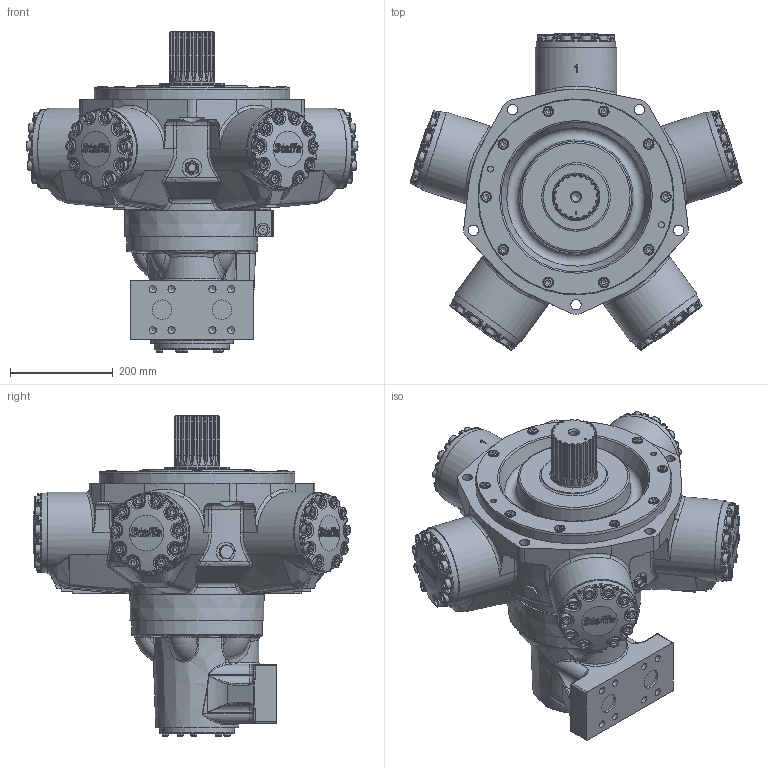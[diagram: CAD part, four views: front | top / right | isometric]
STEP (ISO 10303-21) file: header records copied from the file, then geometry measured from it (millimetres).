
FILE_DESCRIPTION(/* description */ (''),/* implementation_level */ '2;1');
FILE_NAME(/* name */ 'HMC200_S3_SFM4_C_70.stp',/* time_stamp */ '2025-09-30T11:15:56+01:00',/* author */ ('ccallanga'),/* organization */ (''),/* preprocessor_version */ 'ST-DEVELOPER v20',/* originating_system */ 'Autodesk Inventor 2024',/* authorisation */ '');
FILE_SCHEMA (('AUTOMOTIVE_DESIGN { 1 0 10303 214 3 1 1 }'));
Products named in the file (1): 017751 HMC200 Web Assembly_Simplify_1
Bounding box: 645.1 x 616.02 x 621.91 mm (x, y, z)
Volume: 50742477.2 mm3; surface area: 1320679.9 mm2
Topology: 1 solids, 1 shells, 4724 faces, 11574 edges, 6891 vertices
Faces by surface type: bspline 1709, plane 1204, cylinder 1032, torus 462, cone 189, sphere 128
Full cylindrical faces by diameter (mm): 2.2 x4, 4 x1, 4.134 x4, 5.5 x4, 9.4 x1, 11.328 x2, 11.913 x5, 12 x1, 12.7 x5, 13.835 x8, 16.51 x1, 17.323 x1, 19 x1, 19.05 x60, 20 x5, 20.637 x60, 23.825 x5, 25 x1, 25.4 x5, 26.92 x2, 38 x2, 38.1 x3, 87.889 x1, 88.837 x1, 92.964 x1, 127 x1, 146.05 x1, 254 x1, 380.91 x1
Entity records: 238609 total; most frequent: CARTESIAN_POINT 135998, ORIENTED_EDGE 22708, DIRECTION 16560, EDGE_CURVE 11354, VERTEX_POINT 6891, AXIS2_PLACEMENT_3D 6562, EDGE_LOOP 4993, STYLED_ITEM 4725
